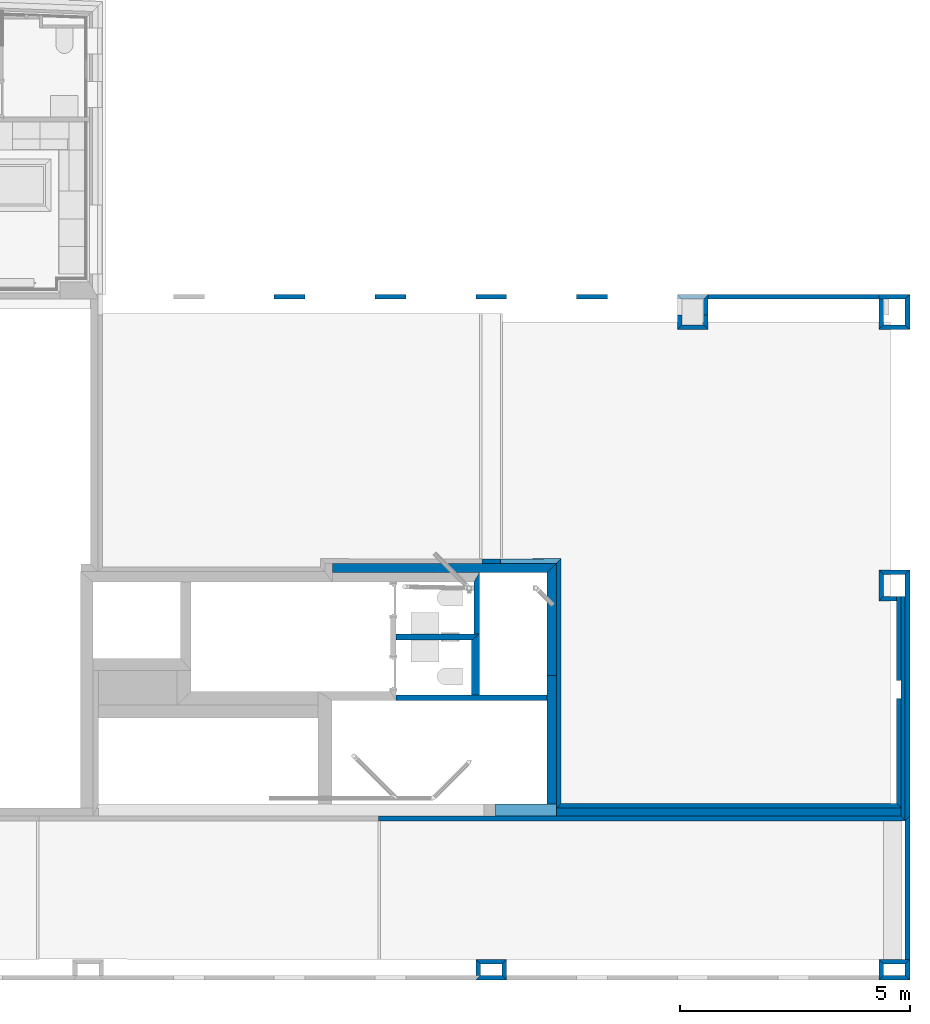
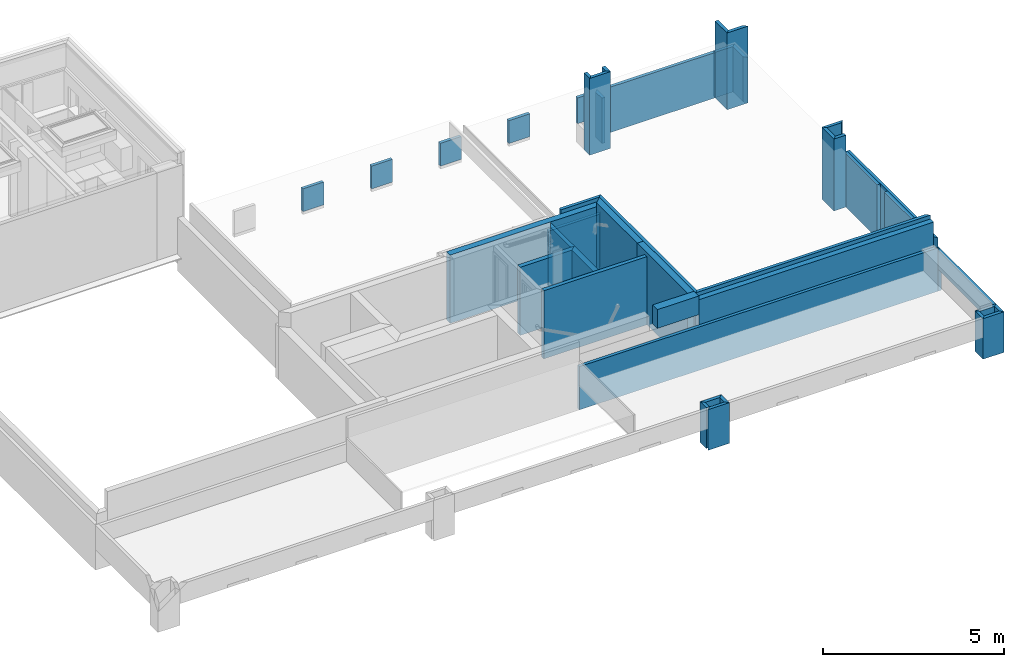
# One storey, part 3 of 22: 44 walls.
"""IFC2X3 building model written with IfcOpenShell, lengths in metres."""

from ifc_helpers import new_model, entity, si_unit, converted_unit, derived_unit, money_unit, direction, frame, frame_2d, origin_with_axes, place, context, subcontext, project, spatial, polyline, rectangle, outline, extrude, material, layer, layer_set, layer_usage, type_object, element, save


model = new_model("IFC2X3")

# Units and contexts
model_context = context("Model", 3, precision=1e-05, world=origin_with_axes(), true_north=direction((0.0, 1.0)))
body_context = subcontext(model_context, "Body", "Model", "MODEL_VIEW", scale=1.0)
ifc_project = project(units=[si_unit("LENGTHUNIT", "METRE"), si_unit("AREAUNIT", "SQUARE_METRE"), si_unit("VOLUMEUNIT", "CUBIC_METRE"), si_unit("ABSORBEDDOSEUNIT", "GRAY"), si_unit("AMOUNTOFSUBSTANCEUNIT", "MOLE"), si_unit("DOSEEQUIVALENTUNIT", "SIEVERT"), si_unit("ELECTRICCAPACITANCEUNIT", "FARAD"), si_unit("ELECTRICCHARGEUNIT", "COULOMB"), si_unit("ELECTRICCONDUCTANCEUNIT", "SIEMENS"), si_unit("ELECTRICCURRENTUNIT", "AMPERE"), si_unit("ELECTRICRESISTANCEUNIT", "OHM"), si_unit("ELECTRICVOLTAGEUNIT", "VOLT"), si_unit("ENERGYUNIT", "JOULE"), si_unit("FORCEUNIT", "NEWTON"), si_unit("FREQUENCYUNIT", "HERTZ"), si_unit("ILLUMINANCEUNIT", "LUX"), si_unit("INDUCTANCEUNIT", "HENRY"), si_unit("LUMINOUSFLUXUNIT", "LUMEN"), si_unit("LUMINOUSINTENSITYUNIT", "CANDELA"), si_unit("MAGNETICFLUXDENSITYUNIT", "TESLA"), si_unit("MAGNETICFLUXUNIT", "WEBER"), si_unit("MASSUNIT", "GRAM"), converted_unit("PLANEANGLEUNIT", "degree", entity("IfcReal", 0.0174532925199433), si_unit("PLANEANGLEUNIT", "RADIAN"), dimensions=[0, 0, 0, 0, 0, 0, 0]), si_unit("POWERUNIT", "WATT"), si_unit("PRESSUREUNIT", "PASCAL"), si_unit("RADIOACTIVITYUNIT", "BECQUEREL"), si_unit("SOLIDANGLEUNIT", "STERADIAN"), si_unit("THERMODYNAMICTEMPERATUREUNIT", "KELVIN"), si_unit("TIMEUNIT", "SECOND"), derived_unit("ACCELERATIONUNIT", [(si_unit("LENGTHUNIT", "METRE"), 1), (si_unit("TIMEUNIT", "SECOND"), -2)]), derived_unit("ANGULARVELOCITYUNIT", [(converted_unit("PLANEANGLEUNIT", "degree", entity("IfcReal", 0.0174532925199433), si_unit("PLANEANGLEUNIT", "RADIAN"), dimensions=[0, 0, 0, 0, 0, 0, 0]), 1), (si_unit("TIMEUNIT", "SECOND"), -1)]), derived_unit("CURVATUREUNIT", [(converted_unit("PLANEANGLEUNIT", "degree", entity("IfcReal", 0.0174532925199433), si_unit("PLANEANGLEUNIT", "RADIAN"), dimensions=[0, 0, 0, 0, 0, 0, 0]), 1), (si_unit("LENGTHUNIT", "METRE"), -1)]), derived_unit("DYNAMICVISCOSITYUNIT", [(si_unit("PRESSUREUNIT", "PASCAL"), 1), (si_unit("TIMEUNIT", "SECOND"), 1)]), derived_unit("HEATFLUXDENSITYUNIT", [(si_unit("POWERUNIT", "WATT"), 1), (si_unit("LENGTHUNIT", "METRE"), -2)]), derived_unit("HEATINGVALUEUNIT", [(si_unit("ENERGYUNIT", "JOULE"), 1), (si_unit("MASSUNIT", "GRAM"), -1)]), derived_unit("INTEGERCOUNTRATEUNIT", [(si_unit("TIMEUNIT", "SECOND"), -1)]), derived_unit("IONCONCENTRATIONUNIT", [(si_unit("MASSUNIT", "GRAM"), 1), (si_unit("VOLUMEUNIT", "CUBIC_METRE"), -1)]), derived_unit("ISOTHERMALMOISTURECAPACITYUNIT", [(si_unit("VOLUMEUNIT", "CUBIC_METRE"), 1), (si_unit("MASSUNIT", "GRAM"), -1)]), derived_unit("KINEMATICVISCOSITYUNIT", [(si_unit("AREAUNIT", "SQUARE_METRE"), 1), (si_unit("TIMEUNIT", "SECOND"), -1)]), derived_unit("LINEARFORCEUNIT", [(si_unit("FORCEUNIT", "NEWTON"), 1), (si_unit("LENGTHUNIT", "METRE"), -1)]), derived_unit("LINEARMOMENTUNIT", [(si_unit("FORCEUNIT", "NEWTON"), 1), (si_unit("LENGTHUNIT", "METRE"), -1)]), derived_unit("LINEARSTIFFNESSUNIT", [(si_unit("FORCEUNIT", "NEWTON"), 1), (si_unit("LENGTHUNIT", "METRE"), -1)]), derived_unit("LINEARVELOCITYUNIT", [(si_unit("LENGTHUNIT", "METRE"), 1), (si_unit("TIMEUNIT", "SECOND"), -1)]), derived_unit("LUMINOUSINTENSITYDISTRIBUTIONUNIT", [(si_unit("LUMINOUSINTENSITYUNIT", "CANDELA"), 1), (si_unit("LUMINOUSFLUXUNIT", "LUMEN"), -1)]), derived_unit("MASSDENSITYUNIT", [(si_unit("MASSUNIT", "GRAM"), 1), (si_unit("VOLUMEUNIT", "CUBIC_METRE"), -1)]), derived_unit("MASSFLOWRATEUNIT", [(si_unit("MASSUNIT", "GRAM"), 1), (si_unit("TIMEUNIT", "SECOND"), -1)]), derived_unit("MASSPERLENGTHUNIT", [(si_unit("MASSUNIT", "GRAM"), 1), (si_unit("LENGTHUNIT", "METRE"), -1)]), derived_unit("MODULUSOFELASTICITYUNIT", [(si_unit("FORCEUNIT", "NEWTON"), 1), (si_unit("AREAUNIT", "SQUARE_METRE"), -1)]), derived_unit("MODULUSOFLINEARSUBGRADEREACTIONUNIT", [(si_unit("FORCEUNIT", "NEWTON"), 1), (si_unit("LENGTHUNIT", "METRE"), -2)]), derived_unit("MODULUSOFROTATIONALSUBGRADEREACTIONUNIT", [(si_unit("FORCEUNIT", "NEWTON"), 1), (si_unit("LENGTHUNIT", "METRE"), 1)]), derived_unit("MODULUSOFSUBGRADEREACTIONUNIT", [(si_unit("FORCEUNIT", "NEWTON"), 1), (si_unit("VOLUMEUNIT", "CUBIC_METRE"), -1)]), derived_unit("MOISTUREDIFFUSIVITYUNIT", [(si_unit("VOLUMEUNIT", "CUBIC_METRE"), 1), (si_unit("TIMEUNIT", "SECOND"), -1)]), derived_unit("MOLECULARWEIGHTUNIT", [(si_unit("MASSUNIT", "GRAM"), 1), (si_unit("AMOUNTOFSUBSTANCEUNIT", "MOLE"), -1)]), derived_unit("PLANARFORCEUNIT", [(si_unit("FORCEUNIT", "NEWTON"), 1), (si_unit("LENGTHUNIT", "METRE"), -2)]), derived_unit("ROTATIONALFREQUENCYUNIT", [(si_unit("TIMEUNIT", "SECOND"), -1)]), derived_unit("ROTATIONALMASSUNIT", [(si_unit("MASSUNIT", "GRAM"), 1), (si_unit("LENGTHUNIT", "METRE"), 2)]), derived_unit("ROTATIONALSTIFFNESSUNIT", [(si_unit("FORCEUNIT", "NEWTON"), 1), (si_unit("LENGTHUNIT", "METRE"), 1), (converted_unit("PLANEANGLEUNIT", "degree", entity("IfcReal", 0.0174532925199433), si_unit("PLANEANGLEUNIT", "RADIAN"), dimensions=[0, 0, 0, 0, 0, 0, 0]), -1)]), derived_unit("SECTIONAREAINTEGRALUNIT", [(si_unit("LENGTHUNIT", "METRE"), 5)]), derived_unit("SECTIONMODULUSUNIT", [(si_unit("LENGTHUNIT", "METRE"), 3)]), derived_unit("SHEARMODULUSUNIT", [(si_unit("FORCEUNIT", "NEWTON"), 1), (si_unit("AREAUNIT", "SQUARE_METRE"), -1)]), derived_unit("SOUNDPOWERUNIT", [(si_unit("ENERGYUNIT", "JOULE"), 1), (si_unit("TIMEUNIT", "SECOND"), -1)]), derived_unit("SPECIFICHEATCAPACITYUNIT", [(si_unit("FORCEUNIT", "NEWTON"), 1), (si_unit("MASSUNIT", "GRAM"), -1), (si_unit("THERMODYNAMICTEMPERATUREUNIT", "KELVIN"), -1)]), derived_unit("TEMPERATUREGRADIENTUNIT", [(si_unit("THERMODYNAMICTEMPERATUREUNIT", "KELVIN"), 1), (si_unit("LENGTHUNIT", "METRE"), -1)]), derived_unit("THERMALADMITTANCEUNIT", [(si_unit("POWERUNIT", "WATT"), 1), (si_unit("AREAUNIT", "SQUARE_METRE"), -1), (si_unit("THERMODYNAMICTEMPERATUREUNIT", "KELVIN"), -1)]), derived_unit("THERMALCONDUCTANCEUNIT", [(si_unit("POWERUNIT", "WATT"), 1), (si_unit("LENGTHUNIT", "METRE"), -1), (si_unit("THERMODYNAMICTEMPERATUREUNIT", "KELVIN"), -1)]), derived_unit("THERMALEXPANSIONCOEFFICIENTUNIT", [(si_unit("THERMODYNAMICTEMPERATUREUNIT", "KELVIN"), -1)]), derived_unit("THERMALRESISTANCEUNIT", [(si_unit("AREAUNIT", "SQUARE_METRE"), 1), (si_unit("POWERUNIT", "WATT"), -1)]), derived_unit("THERMALTRANSMITTANCEUNIT", [(si_unit("POWERUNIT", "WATT"), 1), (si_unit("AREAUNIT", "SQUARE_METRE"), -1), (si_unit("THERMODYNAMICTEMPERATUREUNIT", "KELVIN"), -1)]), derived_unit("TORQUEUNIT", [(si_unit("FORCEUNIT", "NEWTON"), 1), (si_unit("LENGTHUNIT", "METRE"), 1)]), derived_unit("VAPORPERMEABILITYUNIT", [(si_unit("MASSUNIT", "GRAM"), 1), (si_unit("TIMEUNIT", "SECOND"), -1)]), derived_unit("VOLUMETRICFLOWRATEUNIT", [(si_unit("VOLUMEUNIT", "CUBIC_METRE"), 1), (si_unit("TIMEUNIT", "SECOND"), -1)]), derived_unit("WARPINGCONSTANTUNIT", [(si_unit("LENGTHUNIT", "METRE"), 6)]), derived_unit("WARPINGMOMENTUNIT", [(si_unit("FORCEUNIT", "NEWTON"), 1), (si_unit("LENGTHUNIT", "METRE"), 2)]), money_unit("GBP")], contexts=[model_context])

# Site, building, storey
site_placement = place(None, origin_with_axes())
site = spatial("IfcSite", under=ifc_project, at=site_placement, Name="Site", CompositionType="ELEMENT")
building_placement = place(site_placement, origin_with_axes())
building = spatial("IfcBuilding", under=site, at=building_placement, Name="Building01", CompositionType="ELEMENT")
storey_placement = place(building_placement, frame((0.0, 0.0, 2.6), z_axis=(0.0, 0.0, 1.0), x_axis=(1.0, 0.0, 0.0)))
storey = spatial("IfcBuildingStorey", under=building, at=storey_placement, Name="MF", CompositionType="ELEMENT", Elevation=2.6)

# Walls
ifc_material_1 = material(Name="A_BSUK_WallsExternal_Brick")
ifc_layer_1 = layer(ifc_material_1, 0.1, ventilated=False)
ifc_layer_set_1 = layer_set([ifc_layer_1])
ifc_layer_usage_1 = layer_usage(ifc_layer_set_1, "AXIS2", "POSITIVE", 0.0)
wall_type_1 = type_object("IfcWallType", Name="A-Walls-ExternalBrick", PredefinedType="NOTDEFINED")
wall_1_placement = place(storey_placement, frame((26.31, -0.000988, 0.0), z_axis=(0.0, 0.0, 1.0), x_axis=(1.0, 0.0, 0.0)))
element("IfcWallStandardCase", 1, at=wall_1_placement, inside=storey, type_object=wall_type_1, material=ifc_layer_usage_1, Name="A-Walls-ExternalBrick", ObjectType="A-Walls-ExternalBrick", context=body_context, shape_type="SweptSolid", body=[
    extrude(outline(polyline([(0.571155, 0.1), (0.1, 0.1), (0.0, 0.0), (0.671155, 0.0), (0.571155, 0.1)])), origin_with_axes(), (0.0, 0.0, 1.0), 1.37),
])
wall_2_placement = place(storey_placement, frame((26.981155, -0.000988, 0.0), z_axis=(0.0, 0.0, 1.0), x_axis=(0.0, 1.0, 0.0)))
element("IfcWallStandardCase", 2, at=wall_2_placement, inside=storey, type_object=wall_type_1, material=ifc_layer_usage_1, Name="A-Walls-ExternalBrick", ObjectType="A-Walls-ExternalBrick", context=body_context, shape_type="SweptSolid", body=[
    extrude(outline(polyline([(0.349667, 0.1), (0.1, 0.1), (0.0, 0.0), (0.449667, 0.0), (0.349667, 0.1)])), origin_with_axes(), (0.0, 0.0, 1.0), 1.37),
])
wall_3_placement = place(storey_placement, frame((26.981155, 0.448679, 0.0), z_axis=(0.0, 0.0, 1.0), x_axis=(-1.0, 0.0, 0.0)))
element("IfcWallStandardCase", 3, at=wall_3_placement, inside=storey, type_object=wall_type_1, material=ifc_layer_usage_1, Name="A-Walls-ExternalBrick", ObjectType="A-Walls-ExternalBrick", context=body_context, shape_type="SweptSolid", body=[
    extrude(outline(polyline([(0.571155, 0.1), (0.1, 0.1), (0.0, 0.0), (0.671155, 0.0), (0.571155, 0.1)])), origin_with_axes(), (0.0, 0.0, 1.0), 1.37),
])
wall_4_placement = place(storey_placement, frame((26.31, 0.448679, 0.0), z_axis=(0.0, 0.0, 1.0), x_axis=(0.0, -1.0, 0.0)))
element("IfcWallStandardCase", 4, at=wall_4_placement, inside=storey, type_object=wall_type_1, material=ifc_layer_usage_1, Name="A-Walls-ExternalBrick", ObjectType="A-Walls-ExternalBrick", context=body_context, shape_type="SweptSolid", body=[
    extrude(outline(polyline([(0.349667, 0.1), (0.1, 0.1), (0.0, 0.0), (0.449667, 0.0), (0.349667, 0.1)])), origin_with_axes(), (0.0, 0.0, 1.0), 1.37),
])
wall_5_placement = place(storey_placement, frame((21.93, 14.9, 0.499759), z_axis=(0.0, 0.0, 1.0), x_axis=(1.0, 0.0, 0.0)))
element("IfcWallStandardCase", 5, at=wall_5_placement, inside=storey, type_object=wall_type_1, material=ifc_layer_usage_1, Name="A-Walls-ExternalBrick", ObjectType="A-Walls-ExternalBrick", context=body_context, shape_type="SweptSolid", body=[
    extrude(rectangle(XDim=0.67, YDim=0.1, at=frame_2d((0.335, -0.05), x_axis=(1.0, 0.0))), origin_with_axes(), (0.0, 0.0, 1.0), 0.870241),
])
for number, where, z_axis, x_axis, name in (
    (6, (19.74, 14.9, 0.599759), (0.0, 0.0, 1.0), (1.0, 0.0, 0.0), "A-Walls-ExternalBrick"),
    (7, (17.55, 14.9, 0.599759), (0.0, 0.0, 1.0), (1.0, 0.0, 0.0), "A-Walls-ExternalBrick"),
    (8, (15.36, 14.9, 0.599759), (0.0, 0.0, 1.0), (1.0, 0.0, 0.0), "A-Walls-ExternalBrick"),
    (9, (13.17, 14.9, 0.599759), (0.0, 0.0, 1.0), (1.0, 0.0, 0.0), "A-Walls-ExternalBrick"),
):
    element("IfcWallStandardCase", number, at=place(storey_placement, frame(where, z_axis=z_axis, x_axis=x_axis)), inside=storey, type_object=wall_type_1, material=ifc_layer_usage_1, Name=name, ObjectType="A-Walls-ExternalBrick", context=body_context, shape_type="SweptSolid", body=[
        extrude(rectangle(XDim=0.67, YDim=0.1, at=frame_2d((0.335, -0.05), x_axis=(1.0, 0.0))), origin_with_axes(), (0.0, 0.0, 1.0), 0.770241),
    ])
wall_6_placement = place(storey_placement, frame((26.314179, 8.237758, 0.0), z_axis=(0.0, 0.0, 1.0), x_axis=(1.0, 0.0, 0.0)))
element("IfcWallStandardCase", 10, at=wall_6_placement, inside=storey, type_object=wall_type_1, material=ifc_layer_usage_1, Name="A-Walls-ExternalBrick", ObjectType="A-Walls-ExternalBrick", context=body_context, shape_type="SweptSolid", body=[
    extrude(outline(polyline([(0.381054, 0.1), (0.1, 0.1), (0.0, 0.0), (0.38105, 0.0), (0.381054, 0.1)])), origin_with_axes(), (0.0, 0.0, 1.0), 2.43),
])
wall_7_placement = place(storey_placement, frame((26.314179, 8.909531, 0.0), z_axis=(0.0, 0.0, 1.0), x_axis=(0.0, -1.0, 0.0)))
element("IfcWallStandardCase", 11, at=wall_7_placement, inside=storey, type_object=wall_type_1, material=ifc_layer_usage_1, Name="A-Walls-ExternalBrick", ObjectType="A-Walls-ExternalBrick", context=body_context, shape_type="SweptSolid", body=[
    extrude(outline(polyline([(0.571773, 0.1), (0.1, 0.1), (0.0, 0.0), (0.671773, 0.0), (0.571773, 0.1)])), origin_with_axes(), (0.0, 0.0, 1.0), 2.43),
])
wall_8_placement = place(storey_placement, frame((26.981285, 8.909531, 0.0), z_axis=(0.0, 0.0, 1.0), x_axis=(-1.0, 0.0, 0.0)))
element("IfcWallStandardCase", 12, at=wall_8_placement, inside=storey, type_object=wall_type_1, material=ifc_layer_usage_1, Name="A-Walls-ExternalBrick", ObjectType="A-Walls-ExternalBrick", context=body_context, shape_type="SweptSolid", body=[
    extrude(outline(polyline([(0.567106, 0.1), (0.1, 0.1), (0.0, 0.0), (0.667106, 0.0), (0.567106, 0.1)])), origin_with_axes(), (0.0, 0.0, 1.0), 2.43),
])
wall_9_placement = place(storey_placement, frame((26.981285, 3.459332, 0.0), z_axis=(0.0, 0.0, 1.0), x_axis=(0.0, 1.0, 0.0)))
element("IfcWallStandardCase", 13, at=wall_9_placement, inside=storey, type_object=wall_type_1, material=ifc_layer_usage_1, Name="A-Walls-ExternalBrick", ObjectType="A-Walls-ExternalBrick", context=body_context, shape_type="SweptSolid", body=[
    extrude(outline(polyline([(5.350199, 0.1), (0.0, 0.1), (0.0, 0.0), (5.450199, 0.0), (5.350199, 0.1)])), origin_with_axes(), (0.0, 0.0, 1.0), 1.37),
])
wall_10_placement = place(storey_placement, frame((26.981639, 14.134094, -0.16), z_axis=(0.0, 0.0, 1.0), x_axis=(0.0, 1.0, 0.0)))
element("IfcWallStandardCase", 14, at=wall_10_placement, inside=storey, type_object=wall_type_1, material=ifc_layer_usage_1, Name="A-Walls-ExternalBrick", ObjectType="A-Walls-ExternalBrick", context=body_context, shape_type="SweptSolid", body=[
    extrude(outline(polyline([(0.665906, 0.1), (0.100006, 0.1), (0.0, 0.0), (0.765906, 0.0), (0.665906, 0.1)])), origin_with_axes(), (0.0, 0.0, 1.0), 1.53),
])
wall_11_placement = place(storey_placement, frame((26.981639, 14.9, -0.16), z_axis=(0.0, 0.0, 1.0), x_axis=(-1.0, 0.0, 0.0)))
element("IfcWallStandardCase", 15, at=wall_11_placement, inside=storey, type_object=wall_type_1, material=ifc_layer_usage_1, Name="A-Walls-ExternalBrick", ObjectType="A-Walls-ExternalBrick", context=body_context, shape_type="SweptSolid", body=[
    extrude(outline(polyline([(0.671639, 0.1), (0.1, 0.1), (0.0, 0.0), (0.671639, 0.0), (0.671639, 0.1)])), origin_with_axes(), (0.0, 0.0, 1.0), 1.53),
])
wall_12_placement = place(storey_placement, frame((26.881639, 3.459332, 0.725), z_axis=(0.0, 0.0, 1.0), x_axis=(0.0, -1.0, 0.0)))
element("IfcWallStandardCase", 16, at=wall_12_placement, inside=storey, type_object=wall_type_1, material=ifc_layer_usage_1, Name="A-Walls-ExternalBrick", ObjectType="A-Walls-ExternalBrick", context=body_context, shape_type="SweptSolid", body=[
    extrude(outline(polyline([(-0.1, 0.1), (0.0, 0.0), (3.010653, 0.0), (3.010653, 0.1), (-0.1, 0.1)])), origin_with_axes(), (0.0, 0.0, 1.0), 0.645),
])
wall_13_placement = place(storey_placement, frame((26.30997, 14.134133, -0.16), z_axis=(0.0, 0.0, 1.0), x_axis=(1.0, -5.782e-05, 0.0)))
element("IfcWallStandardCase", 17, at=wall_13_placement, inside=storey, type_object=wall_type_1, material=ifc_layer_usage_1, Name="A-Walls-ExternalBrick", ObjectType="A-Walls-ExternalBrick", context=body_context, shape_type="SweptSolid", body=[
    extrude(outline(polyline([(0.571663, 0.1), (0.1, 0.1), (0.0, 0.0), (0.671669, 0.0), (0.571663, 0.1)])), origin_with_axes(), (0.0, 0.0, 1.0), 2.59),
])
wall_14_placement = place(storey_placement, frame((21.930008, 14.134296, -0.16), z_axis=(0.0, 0.0, 1.0), x_axis=(1.0, 0.0, 0.0)))
element("IfcWallStandardCase", 18, at=wall_14_placement, inside=storey, type_object=wall_type_1, material=ifc_layer_usage_1, Name="A-Walls-ExternalBrick", ObjectType="A-Walls-ExternalBrick", context=body_context, shape_type="SweptSolid", body=[
    extrude(outline(polyline([(0.569979, 0.1), (0.100006, 0.1), (0.0, 0.0), (0.669985, 0.0), (0.569979, 0.1)])), origin_with_axes(), (0.0, 0.0, 1.0), 2.59),
])
wall_15_placement = place(storey_placement, frame((21.930026, 14.449011, -0.16), z_axis=(0.0, 0.0, 1.0), x_axis=(-5.782e-05, -1.0, 0.0)))
element("IfcWallStandardCase", 19, at=wall_15_placement, inside=storey, type_object=wall_type_1, material=ifc_layer_usage_1, Name="A-Walls-ExternalBrick", ObjectType="A-Walls-ExternalBrick", context=body_context, shape_type="SweptSolid", body=[
    extrude(outline(polyline([(0.214709, 0.1), (0.0, 0.1), (0.0, 0.0), (0.314715, 0.0), (0.214709, 0.1)])), origin_with_axes(), (0.0, 0.0, 1.0), 2.59),
])
wall_16_placement = place(storey_placement, frame((22.599974, 14.449011, -0.16), z_axis=(0.0, 0.0, 1.0), x_axis=(5.782e-05, -1.0, 0.0)))
element("IfcWallStandardCase", 20, at=wall_16_placement, inside=storey, type_object=wall_type_1, material=ifc_layer_usage_1, Name="A-Walls-ExternalBrick", ObjectType="A-Walls-ExternalBrick", context=body_context, shape_type="SweptSolid", body=[
    extrude(outline(polyline([(0.314715, 0.0), (0.0, 0.0), (0.0, -0.1), (0.214709, -0.1), (0.314715, 0.0)])), origin_with_axes(), (0.0, 0.0, 1.0), 2.59),
])
wall_17_placement = place(storey_placement, frame((22.599974, 14.449011, -0.16), z_axis=(0.0, 0.0, 1.0), x_axis=(5.782e-05, 1.0, 0.0)))
element("IfcWallStandardCase", 21, at=wall_17_placement, inside=storey, type_object=wall_type_1, material=ifc_layer_usage_1, Name="A-Walls-ExternalBrick", ObjectType="A-Walls-ExternalBrick", context=body_context, shape_type="SweptSolid", body=[
    extrude(outline(polyline([(0.348155, 0.1), (0.0, 0.1), (0.0, 0.0), (0.448161, 0.0), (0.348155, 0.1)])), origin_with_axes(), (0.0, 0.0, 1.0), 1.53),
])
wall_18_placement = place(storey_placement, frame((26.881285, 3.459332, 0.0), z_axis=(0.0, 0.0, 1.0), x_axis=(-1.0, 0.0, 0.0)))
element("IfcWallStandardCase", 22, at=wall_18_placement, inside=storey, type_object=wall_type_1, material=ifc_layer_usage_1, Name="A-Walls-ExternalBrick", ObjectType="A-Walls-ExternalBrick", context=body_context, shape_type="SweptSolid", body=[
    extrude(rectangle(XDim=11.442424, YDim=0.1, at=frame_2d((5.721212, -0.05), x_axis=(-1.0, 0.0))), origin_with_axes(), (0.0, 0.0, 1.0), 1.46),
])
wall_19_placement = place(storey_placement, frame((18.22, -0.000329, 0.0), z_axis=(0.0, 0.0, 1.0), x_axis=(0.0, 1.0, 0.0)))
element("IfcWallStandardCase", 23, at=wall_19_placement, inside=storey, type_object=wall_type_1, material=ifc_layer_usage_1, Name="A-Walls-ExternalBrick", ObjectType="A-Walls-ExternalBrick", context=body_context, shape_type="SweptSolid", body=[
    extrude(outline(polyline([(0.349667, 0.1), (0.1, 0.1), (0.0, 0.0), (0.449667, 0.0), (0.349667, 0.1)])), origin_with_axes(), (0.0, 0.0, 1.0), 1.37),
])
wall_20_placement = place(storey_placement, frame((17.55, -0.000329, 0.0), z_axis=(0.0, 0.0, 1.0), x_axis=(1.0, 0.0, 0.0)))
element("IfcWallStandardCase", 24, at=wall_20_placement, inside=storey, type_object=wall_type_1, material=ifc_layer_usage_1, Name="A-Walls-ExternalBrick", ObjectType="A-Walls-ExternalBrick", context=body_context, shape_type="SweptSolid", body=[
    extrude(outline(polyline([(0.57, 0.1), (0.1, 0.1), (0.0, 0.0), (0.67, 0.0), (0.57, 0.1)])), origin_with_axes(), (0.0, 0.0, 1.0), 1.37),
])
wall_21_placement = place(storey_placement, frame((17.55, 0.449338, 0.0), z_axis=(0.0, 0.0, 1.0), x_axis=(0.0, -1.0, 0.0)))
element("IfcWallStandardCase", 25, at=wall_21_placement, inside=storey, type_object=wall_type_1, material=ifc_layer_usage_1, Name="A-Walls-ExternalBrick", ObjectType="A-Walls-ExternalBrick", context=body_context, shape_type="SweptSolid", body=[
    extrude(outline(polyline([(0.349338, 0.1), (0.1, 0.1), (0.0, 0.0), (0.349338, 0.0), (0.349338, 0.1)])), origin_with_axes(), (0.0, 0.0, 1.0), 1.37),
])
wall_22_placement = place(storey_placement, frame((18.22, 0.449338, 0.0), z_axis=(0.0, 0.0, 1.0), x_axis=(-1.0, 0.0, 0.0)))
element("IfcWallStandardCase", 26, at=wall_22_placement, inside=storey, type_object=wall_type_1, material=ifc_layer_usage_1, Name="A-Walls-ExternalBrick", ObjectType="A-Walls-ExternalBrick", context=body_context, shape_type="SweptSolid", body=[
    extrude(outline(polyline([(0.57, 0.1), (0.1, 0.1), (0.0, 0.0), (0.67, 0.0), (0.57, 0.1)])), origin_with_axes(), (0.0, 0.0, 1.0), 1.37),
])
wall_23_placement = place(storey_placement, frame((26.310009, 14.8, -0.16), z_axis=(0.0, 0.0, 1.0), x_axis=(-5.782e-05, -1.0, 0.0)))
element("IfcWallStandardCase", 27, at=wall_23_placement, inside=storey, type_object=wall_type_1, material=ifc_layer_usage_1, Name="A-Walls-ExternalBrick", ObjectType="A-Walls-ExternalBrick", context=body_context, shape_type="SweptSolid", body=[
    extrude(outline(polyline([(0.565867, 0.1), (-6e-06, 0.1), (0.0, 0.0), (0.665867, 0.0), (0.565867, 0.1)])), origin_with_axes(), (0.0, 0.0, 1.0), 2.59),
])
wall_24_placement = place(storey_placement, frame((22.6, 14.797172, -0.16), z_axis=(0.0, 0.0, 1.0), x_axis=(1.0, 0.0, 0.0)))
element("IfcWallStandardCase", 28, at=wall_24_placement, inside=storey, type_object=wall_type_1, material=ifc_layer_usage_1, Name="A-Walls-ExternalBrick", ObjectType="A-Walls-ExternalBrick", context=body_context, shape_type="SweptSolid", body=[
    extrude(outline(polyline([(3.709964, 0.1), (0.0, 0.1), (0.0, 0.0), (3.70997, 0.0), (3.709964, 0.1)])), origin_with_axes(), (0.0, 0.0, 1.0), 1.53),
])
ifc_material_2 = material(Name="A_BSUK_WallsExternal_Block")
ifc_layer_2 = layer(ifc_material_2, 0.086, ventilated=False)
ifc_layer_set_2 = layer_set([ifc_layer_2])
ifc_layer_usage_2 = layer_usage(ifc_layer_set_2, "AXIS2", "POSITIVE", 0.0)
wall_type_2 = type_object("IfcWallType", Name="A-Walls-ExternalBlock", PredefinedType="NOTDEFINED")
wall_25_placement = place(storey_placement, frame((26.881285, 3.459332, 0.0), z_axis=(0.0, 0.0, 1.0), x_axis=(0.0, 1.0, 0.0)))
element("IfcWallStandardCase", 29, at=wall_25_placement, inside=storey, type_object=wall_type_2, material=ifc_layer_usage_2, Name="A-Walls-ExternalBlock", ObjectType="A-Walls-ExternalBlock", context=body_context, shape_type="SweptSolid", body=[
    extrude(outline(polyline([(0.1, 0.086), (0.0, 0.0), (4.878426, 0.0), (4.878426, 0.086), (0.1, 0.086)])), origin_with_axes(), (0.0, 0.0, 1.0), 1.8),
])
ifc_layer_3 = layer(ifc_material_2, 0.175, ventilated=False)
ifc_layer_set_3 = layer_set([ifc_layer_3])
ifc_layer_usage_3 = layer_usage(ifc_layer_set_3, "AXIS2", "POSITIVE", 0.0)
wall_26_placement = place(storey_placement, frame((19.302772, 3.558962, 0.0), z_axis=(0.0, 0.0, 1.0), x_axis=(1.0, 0.0, 0.0)))
element("IfcWallStandardCase", 30, at=wall_26_placement, inside=storey, type_object=wall_type_2, material=ifc_layer_usage_3, Name="A-Walls-ExternalBlock", ObjectType="A-Walls-ExternalBlock", context=body_context, shape_type="SweptSolid", body=[
    extrude(rectangle(XDim=7.492513, YDim=0.175, at=frame_2d((3.746257, 0.0875), x_axis=(-1.0, 0.0))), origin_with_axes(), (0.0, 0.0, 1.0), 2.3),
])
ifc_layer_4 = layer(ifc_material_2, 0.199996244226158, ventilated=False)
ifc_layer_set_4 = layer_set([ifc_layer_4])
ifc_layer_usage_4 = layer_usage(ifc_layer_set_4, "AXIS2", "POSITIVE", 0.0)
wall_27_placement = place(storey_placement, frame((19.302772, 3.823962, 0.0), z_axis=(0.0, 0.0, 1.0), x_axis=(0.0, 1.0, 0.0)))
element("IfcWallStandardCase", 31, at=wall_27_placement, inside=storey, type_object=wall_type_2, material=ifc_layer_usage_4, Name="A-Walls-ExternalBlock", ObjectType="A-Walls-ExternalBlock", context=body_context, shape_type="SweptSolid", body=[
    extrude(rectangle(XDim=0.199996, YDim=2.786976, at=frame_2d((1.393488, 0.099998), x_axis=(0.0, -1.0))), origin_with_axes(), (0.0, 0.0, 1.0), 2.43),
])
ifc_layer_5 = layer(ifc_material_2, 0.200191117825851, ventilated=False)
ifc_layer_set_5 = layer_set([ifc_layer_5])
ifc_layer_usage_5 = layer_usage(ifc_layer_set_5, "AXIS2", "POSITIVE", 0.0)
wall_28_placement = place(storey_placement, frame((19.302967, 6.610938, 0.0), z_axis=(0.0, 0.0, 1.0), x_axis=(0.0, 1.0, 0.0)))
element("IfcWallStandardCase", 32, at=wall_28_placement, inside=storey, type_object=wall_type_2, material=ifc_layer_usage_5, Name="A-Walls-ExternalBlock", ObjectType="A-Walls-ExternalBlock", context=body_context, shape_type="SweptSolid", body=[
    extrude(outline(polyline([(2.241917, 0.200191), (0.0, 0.200191), (0.0, 0.0), (2.442209, 0.0), (2.241917, 0.200191)])), origin_with_axes(), (0.0, 0.0, 1.0), 2.43),
])
ifc_layer_6 = layer(ifc_material_2, 0.2002919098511, ventilated=False)
ifc_layer_set_6 = layer_set([ifc_layer_6])
ifc_layer_usage_6 = layer_usage(ifc_layer_set_6, "AXIS2", "POSITIVE", 0.0)
wall_29_placement = place(storey_placement, frame((14.43135, 8.852854, 0.0), z_axis=(0.0, 0.0, 1.0), x_axis=(1.0, 0.0, 0.0)))
element("IfcWallStandardCase", 33, at=wall_29_placement, inside=storey, type_object=wall_type_2, material=ifc_layer_usage_6, Name="A-Walls-ExternalBlock", ObjectType="A-Walls-ExternalBlock", context=body_context, shape_type="SweptSolid", body=[
    extrude(outline(polyline([(4.871617, 0.200292), (0.0, 0.200292), (0.0, 0.0), (4.671426, 0.0), (4.871617, 0.200292)])), origin_with_axes(), (0.0, 0.0, 1.0), 2.3),
])
ifc_layer_7 = layer(ifc_material_2, 0.12, ventilated=False)
ifc_layer_set_7 = layer_set([ifc_layer_7])
ifc_layer_usage_7 = layer_usage(ifc_layer_set_7, "AXIS2", "POSITIVE", 0.0)
wall_30_placement = place(storey_placement, frame((15.816265, 6.076984, 0.0), z_axis=(0.0, 0.0, 1.0), x_axis=(1.0, 0.0, 0.0)))
element("IfcWallStandardCase", 34, at=wall_30_placement, inside=storey, type_object=wall_type_2, material=ifc_layer_usage_7, Name="A-Walls-ExternalBlock", ObjectType="A-Walls-ExternalBlock", context=body_context, shape_type="SweptSolid", body=[
    extrude(rectangle(XDim=3.286511, YDim=0.12, at=frame_2d((1.643255, 0.06), x_axis=(-1.0, 0.0))), origin_with_axes(), (0.0, 0.0, 1.0), 2.3),
])
ifc_layer_8 = layer(ifc_material_2, 0.167, ventilated=False)
ifc_layer_set_8 = layer_set([ifc_layer_8])
ifc_layer_usage_8 = layer_usage(ifc_layer_set_8, "AXIS2", "POSITIVE", 0.0)
wall_31_placement = place(storey_placement, frame((17.626946, 6.196984, 0.0), z_axis=(0.0, 0.0, 1.0), x_axis=(0.0, 1.0, 0.0)))
element("IfcWallStandardCase", 35, at=wall_31_placement, inside=storey, type_object=wall_type_2, material=ifc_layer_usage_8, Name="A-Walls-ExternalBlock", ObjectType="A-Walls-ExternalBlock", context=body_context, shape_type="SweptSolid", body=[
    extrude(outline(polyline([(1.185935, 0.167), (0.0, 0.167), (0.0, 0.0), (1.322935, 0.0), (1.185935, 0.167)])), origin_with_axes(), (0.0, 0.0, 1.0), 2.3),
])
ifc_layer_9 = layer(ifc_material_2, 0.137, ventilated=False)
ifc_layer_set_9 = layer_set([ifc_layer_9])
ifc_layer_usage_9 = layer_usage(ifc_layer_set_9, "AXIS2", "POSITIVE", 0.0)
wall_32_placement = place(storey_placement, frame((17.626946, 7.519919, 0.0), z_axis=(0.0, 0.0, 1.0), x_axis=(-1.0, 0.0, 0.0)))
element("IfcWallStandardCase", 36, at=wall_32_placement, inside=storey, type_object=wall_type_2, material=ifc_layer_usage_9, Name="A-Walls-ExternalBlock", ObjectType="A-Walls-ExternalBlock", context=body_context, shape_type="SweptSolid", body=[
    extrude(outline(polyline([(1.810681, 0.137), (0.167, 0.137), (0.0, 0.0), (1.810681, 0.0), (1.810681, 0.137)])), origin_with_axes(), (0.0, 0.0, 1.0), 2.3),
])
wall_33_placement = place(storey_placement, frame((17.626946, 7.519919, 0.0), z_axis=(0.0, 0.0, 1.0), x_axis=(0.0, 1.0, 0.0)))
element("IfcWallStandardCase", 37, at=wall_33_placement, inside=storey, type_object=wall_type_2, material=ifc_layer_usage_7, Name="A-Walls-ExternalBlock", ObjectType="A-Walls-ExternalBlock", context=body_context, shape_type="SweptSolid", body=[
    extrude(outline(polyline([(1.12749, 0.12), (0.0, 0.12), (0.0, 0.0), (1.33249, 0.0), (1.12749, 0.12)])), origin_with_axes(), (0.0, 0.0, 1.0), 2.3),
])
ifc_layer_10 = layer(ifc_material_2, 0.1, ventilated=False)
ifc_layer_set_10 = layer_set([ifc_layer_10])
ifc_layer_usage_10 = layer_usage(ifc_layer_set_10, "AXIS2", "POSITIVE", 0.0)
wall_34_placement = place(storey_placement, frame((19.402776, 3.833852, 0.0), z_axis=(0.0, 0.0, 1.0), x_axis=(3.756e-05, 1.0, 0.0)))
element("IfcWallStandardCase", 38, at=wall_34_placement, inside=storey, type_object=wall_type_2, material=ifc_layer_usage_10, Name="A-Walls-ExternalBlock", ObjectType="A-Walls-ExternalBlock", context=body_context, shape_type="SweptSolid", body=[
    extrude(outline(polyline([(5.219195, 0.1), (-0.1, 0.1), (0.0, 0.0), (5.319202, 0.0), (5.219195, 0.1)])), origin_with_axes(), (0.0, 0.0, 1.0), 2.43),
])
wall_35_placement = place(storey_placement, frame((26.695064, 3.833578, 0.0), z_axis=(0.0, 0.0, 1.0), x_axis=(-1.0, 3.756e-05, 0.0)))
element("IfcWallStandardCase", 39, at=wall_35_placement, inside=storey, type_object=wall_type_2, material=ifc_layer_usage_10, Name="A-Walls-ExternalBlock", ObjectType="A-Walls-ExternalBlock", context=body_context, shape_type="SweptSolid", body=[
    extrude(outline(polyline([(7.392288, 0.1), (-0.1, 0.1), (0.0, 0.0), (7.292288, 0.0), (7.392288, 0.1)])), origin_with_axes(), (0.0, 0.0, 1.0), 2.43),
])
wall_36_placement = place(storey_placement, frame((26.695149, 6.112111, 0.0), z_axis=(0.0, 0.0, 1.0), x_axis=(-3.756e-05, -1.0, 0.0)))
element("IfcWallStandardCase", 40, at=wall_36_placement, inside=storey, type_object=wall_type_2, material=ifc_layer_usage_10, Name="A-Walls-ExternalBlock", ObjectType="A-Walls-ExternalBlock", context=body_context, shape_type="SweptSolid", body=[
    extrude(outline(polyline([(2.378533, 0.1), (0.0, 0.1), (0.0, 0.0), (2.278533, 0.0), (2.378533, 0.1)])), origin_with_axes(), (0.0, 0.0, 1.0), 1.8),
])
wall_37_placement = place(storey_placement, frame((26.695233, 8.337758, 0.0), z_axis=(0.0, 0.0, 1.0), x_axis=(-3.756e-05, -1.0, 0.0)))
element("IfcWallStandardCase", 41, at=wall_37_placement, inside=storey, type_object=wall_type_2, material=ifc_layer_usage_10, Name="A-Walls-ExternalBlock", ObjectType="A-Walls-ExternalBlock", context=body_context, shape_type="SweptSolid", body=[
    extrude(outline(polyline([(1.825996, 0.1), (-4e-06, 0.1), (0.0, 0.0), (1.826, 0.0), (1.825996, 0.1)])), origin_with_axes(), (0.0, 0.0, 1.0), 1.8),
])
wall_38_placement = place(storey_placement, frame((17.685, 9.152989, -0.001338), z_axis=(0.0, 0.0, 1.0), x_axis=(1.0, 3.756e-05, 0.0)))
element("IfcWallStandardCase", 42, at=wall_38_placement, inside=storey, type_object=wall_type_2, material=ifc_layer_usage_10, Name="A-Walls-ExternalBlock", ObjectType="A-Walls-ExternalBlock", context=body_context, shape_type="SweptSolid", body=[
    extrude(outline(polyline([(1.717976, 0.0), (0.0, 0.0), (0.0, -0.1), (1.617968, -0.1), (1.717976, 0.0)])), frame((0.0, 0.0, 0.0), z_axis=(-0.00077894, 0.0, 0.9999997), x_axis=(0.9999997, 0.0, 0.00077894)), (0.00077894, 0.0, 0.9999997), 1.851),
])
wall_39_placement = place(storey_placement, frame((18.084997, 9.152995, 1.84958), z_axis=(0.0, 0.0, 1.0), x_axis=(1.0, 3.756e-05, 0.0)))
element("IfcWallStandardCase", 43, at=wall_39_placement, inside=storey, type_object=wall_type_2, material=ifc_layer_usage_10, Name="A-Walls-ExternalBlock", ObjectType="A-Walls-ExternalBlock", context=body_context, shape_type="SweptSolid", body=[
    extrude(outline(polyline([(1.317979, 0.0), (0.0, 0.0), (0.0, -0.1), (1.217971, -0.1), (1.317979, 0.0)])), frame((0.0, 0.0, 0.0), z_axis=(-0.00066262, 0.0, 0.99999978), x_axis=(0.99999978, 0.0, 0.00066262)), (0.00066262, 0.0, 0.99999978), 0.579547),
])
ifc_layer_11 = layer(ifc_material_2, 0.265, ventilated=False)
ifc_layer_set_11 = layer_set([ifc_layer_11])
ifc_layer_usage_11 = layer_usage(ifc_layer_set_11, "AXIS2", "POSITIVE", 0.0)
wall_40_placement = place(storey_placement, frame((17.98, 3.558962, 1.8), z_axis=(0.0, 0.0, 1.0), x_axis=(1.0, 0.0, 0.0)))
element("IfcWallStandardCase", 44, at=wall_40_placement, inside=storey, type_object=wall_type_2, material=ifc_layer_usage_11, Name="A-Walls-ExternalBlock", ObjectType="A-Walls-ExternalBlock", context=body_context, shape_type="SweptSolid", body=[
    extrude(rectangle(XDim=0.265, YDim=1.322772, at=frame_2d((0.661386, 0.1325), x_axis=(0.0, -1.0))), origin_with_axes(), (0.0, 0.0, 1.0), 0.63),
])

save(model, "model.ifc")
